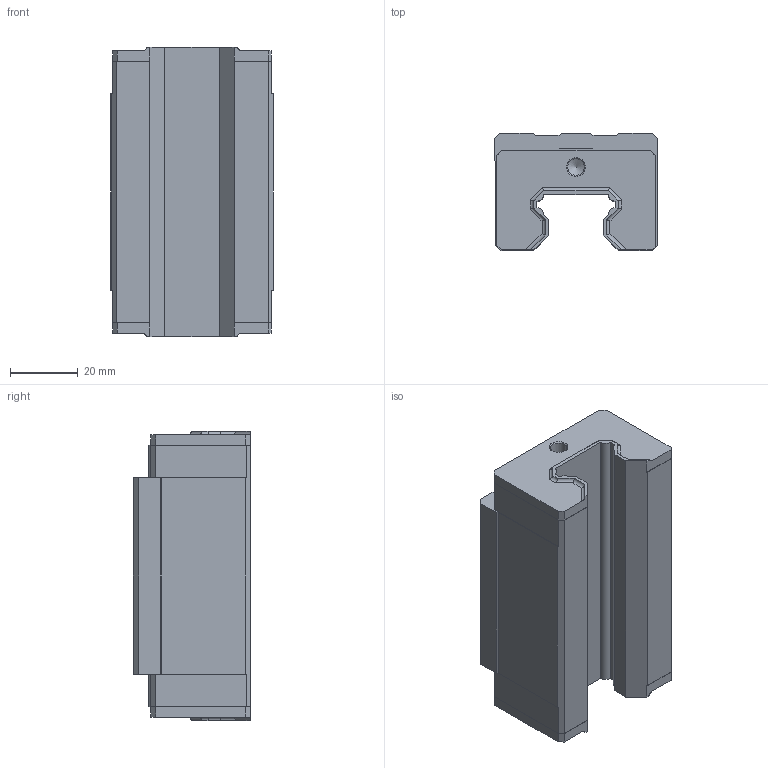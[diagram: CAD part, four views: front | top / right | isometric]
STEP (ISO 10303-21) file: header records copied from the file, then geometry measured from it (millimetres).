
FILE_DESCRIPTION(/* description */ (''),/* implementation_level */ '2;1');
FILE_NAME(/* name */ 'C:\Users\daviddillkoetter\ownCloud\Kamp und Kötter\Artikel\KPN_Profilführungen\Step\KPNW-25X-BS.stp',/* time_stamp */ '2021-01-27T16:44:14+01:00',/* author */ ('daviddillkoetter'),/* organization */ (''),/* preprocessor_version */ 'ST-DEVELOPER v18.1',/* originating_system */ 'Autodesk Inventor 2021',/* authorisation */ '');
FILE_SCHEMA (('AUTOMOTIVE_DESIGN { 1 0 10303 214 3 1 1 }'));
Length unit declared in the file: millimetre
Products named in the file (1): KPNW_F
Bounding box: 48 x 34.5 x 85.2 mm (x, y, z)
Volume: 102138.7 mm3; surface area: 19885.1 mm2
Topology: 1 solids, 1 shells, 116 faces, 336 edges, 222 vertices
Faces by surface type: plane 72, cylinder 32, cone 12
Full cylindrical faces by diameter (mm): 4.917 x6
Entity records: 3912 total; most frequent: CARTESIAN_POINT 669, ORIENTED_EDGE 660, DIRECTION 620, EDGE_CURVE 330, LINE 274, VECTOR 274, VERTEX_POINT 222, AXIS2_PLACEMENT_3D 173
